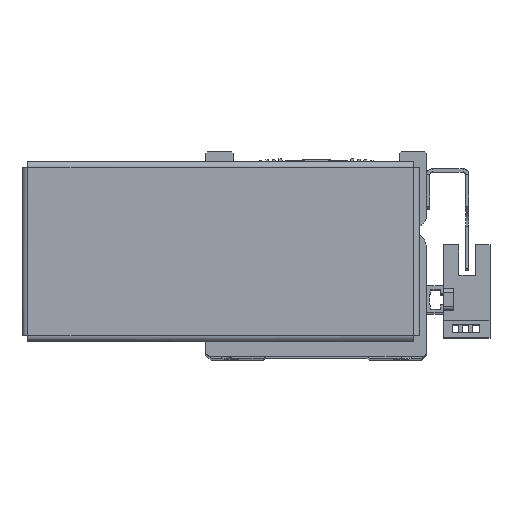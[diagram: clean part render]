
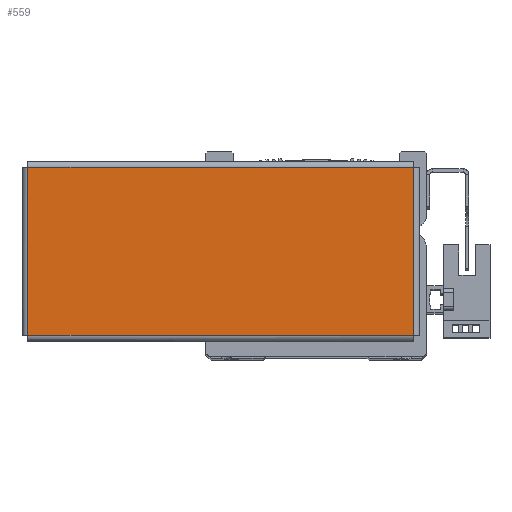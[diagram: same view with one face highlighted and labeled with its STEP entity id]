
A CAD part, top view. The second image highlights one B-rep face of the part: STEP entity #559.
In plain terms, the highlighted planar face has unit normal (0, 0, 1) as drawn and (0, 0, -1) by its records, which use the part's own axes.
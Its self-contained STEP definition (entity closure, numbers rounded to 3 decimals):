
#559 = ADVANCED_FACE ( 'NONE', ( #3659 ), #7379, .F. ) ;
#3098 = LINE ( 'NONE', #7777, #3106 ) ;
#3106 = VECTOR ( 'NONE', #7821, 1000. ) ;
#3226 = LINE ( 'NONE', #7898, #3288 ) ;
#3242 = VECTOR ( 'NONE', #7862, 1000. ) ;
#3282 = LINE ( 'NONE', #7830, #3242 ) ;
#3288 = VECTOR ( 'NONE', #7834, 1000. ) ;
#3356 = VECTOR ( 'NONE', #8043, 1000. ) ;
#3370 = LINE ( 'NONE', #8087, #3356 ) ;
#3659 = FACE_OUTER_BOUND ( 'NONE', #35082, .T. ) ;
#5549 = AXIS2_PLACEMENT_3D ( 'NONE', #7393, #7386, #7335 ) ;
#7335 = DIRECTION ( 'NONE',  ( 1., 0., 0. ) ) ;
#7379 = PLANE ( 'NONE',  #5549 ) ;
#7386 = DIRECTION ( 'NONE',  ( 0., 0., 1. ) ) ;
#7393 = CARTESIAN_POINT ( 'NONE',  ( 0., 0., -1. ) ) ;
#7777 = CARTESIAN_POINT ( 'NONE',  ( -56.893, 24.763, -1. ) ) ;
#7821 = DIRECTION ( 'NONE',  ( 1., 0., 0. ) ) ;
#7830 = CARTESIAN_POINT ( 'NONE',  ( 56.893, -24.763, -1. ) ) ;
#7834 = DIRECTION ( 'NONE',  ( 0., 1., 0. ) ) ;
#7862 = DIRECTION ( 'NONE',  ( -1., 0., 0. ) ) ;
#7898 = CARTESIAN_POINT ( 'NONE',  ( -56.863, -24.793, -1. ) ) ;
#8043 = DIRECTION ( 'NONE',  ( 0., -1., 0. ) ) ;
#8087 = CARTESIAN_POINT ( 'NONE',  ( 56.863, 24.793, -1. ) ) ;
#25703 = CARTESIAN_POINT ( 'NONE',  ( -56.863, 24.763, -1. ) ) ;
#25726 = CARTESIAN_POINT ( 'NONE',  ( 56.863, -24.763, -1. ) ) ;
#25740 = CARTESIAN_POINT ( 'NONE',  ( 56.863, 24.763, -1. ) ) ;
#25752 = CARTESIAN_POINT ( 'NONE',  ( -56.863, -24.763, -1. ) ) ;
#28572 = EDGE_CURVE ( 'NONE', #34584, #34615, #3098, .T. ) ;
#28591 = EDGE_CURVE ( 'NONE', #34617, #34609, #3282, .T. ) ;
#28595 = EDGE_CURVE ( 'NONE', #34609, #34584, #3226, .T. ) ;
#28620 = EDGE_CURVE ( 'NONE', #34615, #34617, #3370, .T. ) ;
#34584 = VERTEX_POINT ( 'NONE', #25703 ) ;
#34609 = VERTEX_POINT ( 'NONE', #25752 ) ;
#34615 = VERTEX_POINT ( 'NONE', #25740 ) ;
#34617 = VERTEX_POINT ( 'NONE', #25726 ) ;
#35082 = EDGE_LOOP ( 'NONE', ( #38747, #38691, #38697, #38695 ) ) ;
#38691 = ORIENTED_EDGE ( 'NONE', *, *, #28591, .T. ) ;
#38695 = ORIENTED_EDGE ( 'NONE', *, *, #28572, .T. ) ;
#38697 = ORIENTED_EDGE ( 'NONE', *, *, #28595, .T. ) ;
#38747 = ORIENTED_EDGE ( 'NONE', *, *, #28620, .T. ) ;
